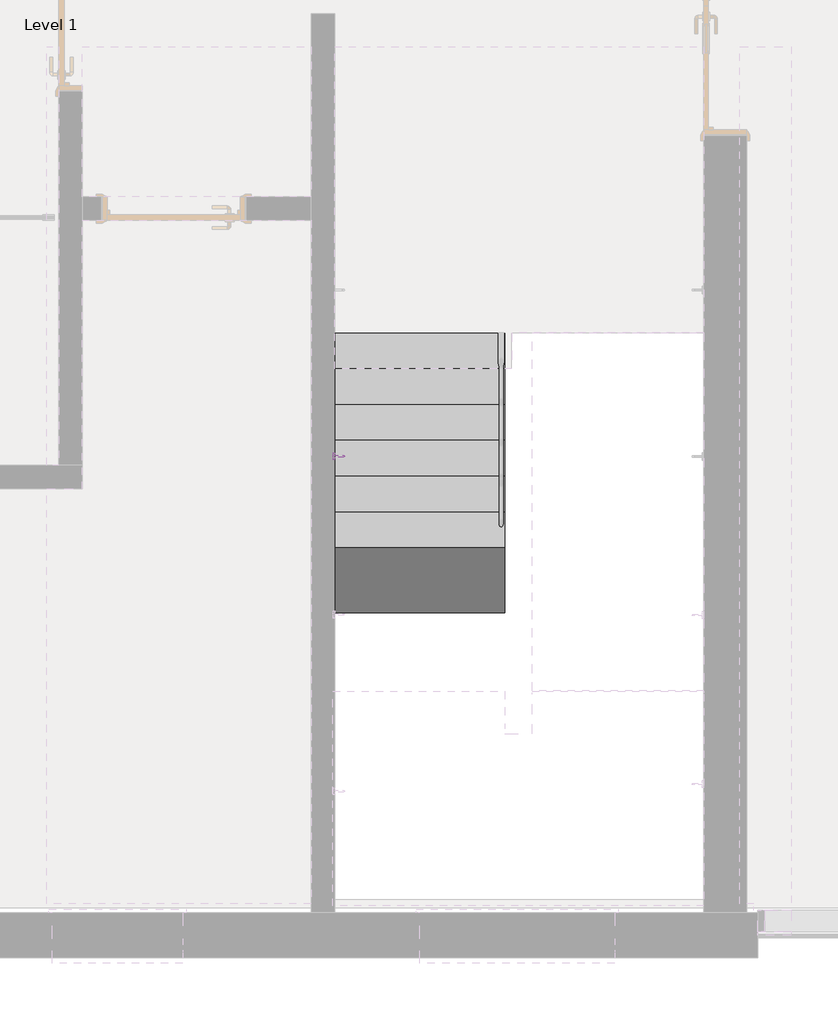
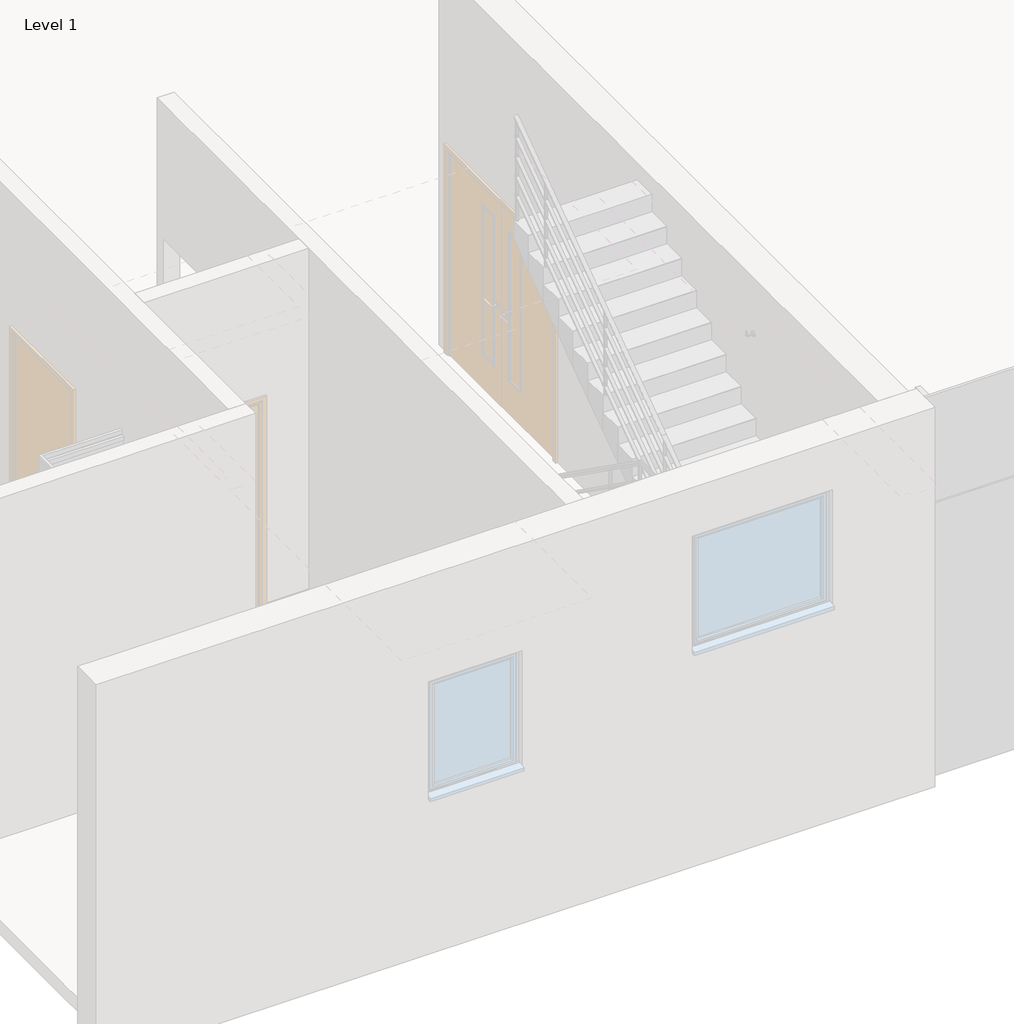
# One storey, part 8 of 12: 1 proxy, 1 stair flight.
"""IFC4 building model written with IfcOpenShell, lengths in millimetres."""

import ifcopenshell
import ifcopenshell.guid

model = None  # the IFC model being written
_history = None  # IfcOwnerHistory: only IFC2X3 demands one
_inside = {}  # id of a spatial element -> (the spatial element, [elements in it])
_under = {}  # id of a project, library or spatial element -> (it, [spatial elements below it])
_declared = {}  # id of a project -> (the project, [libraries it declares])
_typed = {}  # id of a type object -> (the type object, [elements of that type])
_made_of = {}  # id of a material, layer set ... -> (it, [elements and type objects made of it])


def new_model(schema):
    """Start an empty IFC model of exactly this schema.

    Asked for "IFC4X3", IfcOpenShell would pick the latest addendum, in which some entities
    have other attributes; the version numbers below select the first issue.
    IFC2X3 requires an IfcOwnerHistory on every rooted entity: one is made here for all.
    """
    global model, _history
    if schema == "IFC4X3":
        model = ifcopenshell.file(schema_version=(4, 3, 0, 0))
    else:
        model = ifcopenshell.file(schema=schema)
    _inside.clear()
    _under.clear()
    _declared.clear()
    _typed.clear()
    _made_of.clear()
    _history = None
    if model.schema == "IFC2X3":
        org = make("IfcOrganization", Name="unknown")
        user = make(
            "IfcPersonAndOrganization",
            ThePerson=make("IfcPerson", FamilyName="unknown"),
            TheOrganization=org,
        )
        app = make(
            "IfcApplication",
            ApplicationDeveloper=org,
            Version="unknown",
            ApplicationFullName="unknown",
            ApplicationIdentifier="unknown",
        )
        _history = make(
            "IfcOwnerHistory",
            OwningUser=user,
            OwningApplication=app,
            ChangeAction="ADDED",
            CreationDate=0,
        )
    return model


def make(cls, **values):
    """One entity of the class cls with the attributes given. An attribute that is None is left unset."""
    return model.create_entity(
        cls, **{name: value for name, value in values.items() if value is not None}
    )


def rooted(cls, **values):
    """An entity with a GlobalId (a new one), such as an element, a storey or a relation."""
    return make(cls, GlobalId=ifcopenshell.guid.new(), OwnerHistory=_history, **values)


def si_unit(unit_type, name, prefix=None):
    """IfcSIUnit, for example si_unit("LENGTHUNIT", "METRE", prefix="MILLI")."""
    return make("IfcSIUnit", UnitType=unit_type, Prefix=prefix, Name=name)


def assignment(units):
    """IfcUnitAssignment: the units of a project."""
    return None if units is None else make("IfcUnitAssignment", Units=units)


def point(xyz):
    """IfcCartesianPoint."""
    return None if xyz is None else make("IfcCartesianPoint", Coordinates=xyz)


def direction(xyz):
    """IfcDirection."""
    return None if xyz is None else make("IfcDirection", DirectionRatios=xyz)


def frame(location, z_axis=None, x_axis=None):
    """IfcAxis2Placement3D, a coordinate frame: its origin and axes. An axis left out is left unset."""
    return make(
        "IfcAxis2Placement3D",
        Location=point(location),
        Axis=direction(z_axis),
        RefDirection=direction(x_axis),
    )


def frame_2d(location, x_axis=None):
    """IfcAxis2Placement2D, a coordinate frame in the plane: its origin and x axis."""
    return make(
        "IfcAxis2Placement2D", Location=point(location), RefDirection=direction(x_axis)
    )


def origin():
    """The frame at (0, 0, 0) with its axes left unset."""
    return frame((0.0, 0.0, 0.0))


def origin_with_axes():
    """The frame at (0, 0, 0) with the z axis (0, 0, 1) and the x axis (1, 0, 0) written out."""
    return frame((0.0, 0.0, 0.0), z_axis=(0.0, 0.0, 1.0), x_axis=(1.0, 0.0, 0.0))


def place(relative_to, where):
    """IfcLocalPlacement: puts the frame where relative to a parent placement (None: the world)."""
    return make(
        "IfcLocalPlacement", PlacementRelTo=relative_to, RelativePlacement=where
    )


def context(
    kind, dimensions, precision=None, world=None, true_north=None, identifier=None
):
    """IfcGeometricRepresentationContext, for example the 3D "Model" context."""
    return make(
        "IfcGeometricRepresentationContext",
        ContextIdentifier=identifier,
        ContextType=kind,
        CoordinateSpaceDimension=dimensions,
        Precision=precision,
        WorldCoordinateSystem=world,
        TrueNorth=true_north,
    )


def project(units=None, contexts=None):
    """IfcProject with its units and contexts."""
    return rooted(
        "IfcProject",
        Name="project",
        RepresentationContexts=contexts,
        UnitsInContext=assignment(units),
    )


def spatial(cls, under=None, at=None, **own):
    """A site, building, storey or space (cls), placed at a placement, below another one or the project."""
    s = rooted(cls, ObjectPlacement=at, **own)
    if under is not None:
        _under.setdefault(under.id(), (under, []))[1].append(s)
    return s


def polyline(points):
    """IfcPolyline through the points."""
    return make("IfcPolyline", Points=[point(p) for p in points])


def circle_curve(where, radius):
    """IfcCircle in the frame where."""
    return make("IfcCircle", Position=where, Radius=radius)


def ellipse_curve(where, semi_axis1, semi_axis2):
    """IfcEllipse in the frame where."""
    return make(
        "IfcEllipse", Position=where, SemiAxis1=semi_axis1, SemiAxis2=semi_axis2
    )


def trimmed(basis, trim1, trim2, sense, master):
    """IfcTrimmedCurve: the piece of a basis curve between two trims."""
    return make(
        "IfcTrimmedCurve",
        BasisCurve=basis,
        Trim1=trim1,
        Trim2=trim2,
        SenseAgreement=sense,
        MasterRepresentation=master,
    )


def segment(curve, same_sense, transition):
    """IfcCompositeCurveSegment."""
    return make(
        "IfcCompositeCurveSegment",
        Transition=transition,
        SameSense=same_sense,
        ParentCurve=curve,
    )


def composite_curve(segments, self_intersect=None):
    """IfcCompositeCurve: segments joined end to end."""
    return make("IfcCompositeCurve", Segments=segments, SelfIntersect=self_intersect)


def outline(outer, holes=None, kind="AREA"):
    """IfcArbitraryClosedProfileDef: a profile drawn as a closed curve; with holes, ...WithVoids."""
    if holes is None:
        return make("IfcArbitraryClosedProfileDef", ProfileType=kind, OuterCurve=outer)
    return make(
        "IfcArbitraryProfileDefWithVoids",
        ProfileType=kind,
        OuterCurve=outer,
        InnerCurves=holes,
    )


def extrude(swept, where, along, depth):
    """IfcExtrudedAreaSolid: the profile swept, set in the frame where, extruded along a direction by depth."""
    return make(
        "IfcExtrudedAreaSolid",
        SweptArea=swept,
        Position=where,
        ExtrudedDirection=direction(along),
        Depth=depth,
    )


def faces_of(points, faces, orient=None, outer=None):
    """IfcFace entities. A face is a list of loops; a loop is a list of indices into points, from 0.

    orient and outer hold one flag for each loop. By default every Orientation is true, the
    first loop of a face is its IfcFaceOuterBound and the others are IfcFaceBound.
    """
    made = []
    for i, loops in enumerate(faces):
        bounds = []
        for j, loop in enumerate(loops):
            is_outer = j == 0 if outer is None else outer[i][j]
            bounds.append(
                make(
                    "IfcFaceOuterBound" if is_outer else "IfcFaceBound",
                    Bound=make("IfcPolyLoop", Polygon=[points[k] for k in loop]),
                    Orientation=True if orient is None else orient[i][j],
                )
            )
        made.append(make("IfcFace", Bounds=bounds))
    return made


def faceted_brep(points, faces, orient=None, outer=None, voids=None):
    """IfcFacetedBrep: a solid bounded by flat faces; with voids (closed shells), ...WithVoids."""
    shared = [point(p) for p in points]
    hull = make("IfcClosedShell", CfsFaces=faces_of(shared, faces, orient, outer))
    if voids is None:
        return make("IfcFacetedBrep", Outer=hull)
    return make(
        "IfcFacetedBrepWithVoids",
        Outer=hull,
        Voids=[
            make(cls, CfsFaces=faces_of(shared, fs, o, b)) for cls, fs, o, b in voids
        ],
    )


def shape(context_of_items, identifier, shape_type, items):
    """IfcShapeRepresentation: the items that make up one representation, for example the "Body"."""
    return make(
        "IfcShapeRepresentation",
        ContextOfItems=context_of_items,
        RepresentationIdentifier=identifier,
        RepresentationType=shape_type,
        Items=items,
    )


def source(mapping_origin, context_of_items, identifier, shape_type, items):
    """IfcRepresentationMap: a shape defined once, which mapped items show again and again."""
    return make(
        "IfcRepresentationMap",
        MappingOrigin=mapping_origin,
        MappedRepresentation=shape(context_of_items, identifier, shape_type, items),
    )


def transform(
    local_origin,
    x_axis=None,
    y_axis=None,
    z_axis=None,
    scale=None,
    scale2=None,
    scale3=None,
    uniform=True,
):
    """IfcCartesianTransformationOperator3D, or its non-uniform kind. x_axis, y_axis, z_axis: its Axis1, 2, 3."""
    if uniform:
        return make(
            "IfcCartesianTransformationOperator3D",
            Axis1=direction(x_axis),
            Axis2=direction(y_axis),
            LocalOrigin=point(local_origin),
            Scale=scale,
            Axis3=direction(z_axis),
        )
    return make(
        "IfcCartesianTransformationOperator3DnonUniform",
        Axis1=direction(x_axis),
        Axis2=direction(y_axis),
        LocalOrigin=point(local_origin),
        Scale=scale,
        Axis3=direction(z_axis),
        Scale2=scale2,
        Scale3=scale3,
    )


def mapped(mapping_source, mapping_target):
    """IfcMappedItem: shows the shape of a source again, moved by a transform."""
    return make(
        "IfcMappedItem", MappingSource=mapping_source, MappingTarget=mapping_target
    )


def made_of(thing, what):
    """Note that an element or type object is made of a material, layer set ...; save() writes the relation."""
    if what is not None:
        _made_of.setdefault(what.id(), (what, []))[1].append(thing)
    return thing


def element(
    cls,
    number,
    at=None,
    inside=None,
    cuts=None,
    type_object=None,
    material=None,
    context=None,
    identifier="Body",
    shape_type=None,
    held_by="IfcProductDefinitionShape",
    body=None,
    shapes=None,
    **own,
):
    """One element of the class cls, such as IfcWall. Its Tag is "e" and its number.

    at: its placement. inside: the storey or other place that contains it. cuts: it is an
    opening in that element (IfcRelVoidsElement). A single representation is given by context,
    identifier, shape_type and body (its items); several are given by shapes. held_by: the class
    of the entity that holds the representations. save() writes the other relations.
    """
    e = rooted(cls, Tag="e%d" % number, ObjectPlacement=at, **own)
    if body is not None:
        shapes = [shape(context, identifier, shape_type, body)]
    if shapes is not None:
        e.Representation = make(held_by, Representations=shapes)
    if inside is not None:
        _inside.setdefault(inside.id(), (inside, []))[1].append(e)
    if cuts is not None:
        rooted(
            "IfcRelVoidsElement", RelatingBuildingElement=cuts, RelatedOpeningElement=e
        )
    if type_object is not None:
        _typed.setdefault(type_object.id(), (type_object, []))[1].append(e)
    return made_of(e, material)


def aggregate(whole, parts):
    """IfcRelAggregates: a whole, such as a stair, and the parts it consists of."""
    return rooted("IfcRelAggregates", RelatingObject=whole, RelatedObjects=parts)


def save(model, path):
    """Write the relations noted so far, then the file.

    IfcRelAggregates (storeys below a building ...), IfcRelContainedInSpatialStructure (elements
    in a storey), IfcRelDefinesByType, IfcRelAssociatesMaterial and IfcRelDeclares: one each for
    every whole, place, type object, material and project.
    """
    for whole, parts in _under.values():
        aggregate(whole, parts)
    for where, things in _inside.values():
        rooted(
            "IfcRelContainedInSpatialStructure",
            RelatedElements=things,
            RelatingStructure=where,
        )
    for kind, things in _typed.values():
        rooted("IfcRelDefinesByType", RelatedObjects=things, RelatingType=kind)
    for what, things in _made_of.values():
        rooted("IfcRelAssociatesMaterial", RelatedObjects=things, RelatingMaterial=what)
    for by, libraries in _declared.values():
        rooted("IfcRelDeclares", RelatingContext=by, RelatedDefinitions=libraries)
    model.write(path)


def plane_surface(at):
    """IfcPlane: the flat surface through the origin of the frame at, square to its z axis."""
    return make("IfcPlane", Position=at)


def cylinder_surface(at, radius):
    """IfcCylindricalSurface: all points at the distance radius from the z axis of the frame at."""
    return make("IfcCylindricalSurface", Position=at, Radius=radius)


def revolved_surface(curve, axis_point, axis_direction):
    """IfcSurfaceOfRevolution: the curve turned about the line through axis_point along axis_direction."""
    return make(
        "IfcSurfaceOfRevolution",
        SweptCurve=make("IfcArbitraryOpenProfileDef", ProfileType="CURVE", Curve=curve),
        AxisPosition=make("IfcAxis1Placement", Location=point(axis_point), Axis=direction(axis_direction)),
    )


def advanced_brep(points, edges, surfaces, faces):
    """IfcAdvancedBrep: a solid bounded by faces that lie on surfaces and meet in shared edges.

    An edge is (start, end): straight between two places in points (the first is 0);
    or (start, end, curve); or (start, end, curve, False) where it runs against its curve.
    A face is (place in surfaces, loops), or (place, loops, False) where it looks against
    its surface's normal. A loop lists edges by number (the first is 1), with a minus sign
    where the edge is run from its end to its start. The first loop is the outer one.
    """
    corners = [point(p) for p in points]
    vertices = [make("IfcVertexPoint", VertexGeometry=c) for c in corners]
    made = []
    for start, end, *more in edges:
        made.append(
            make(
                "IfcEdgeCurve",
                EdgeStart=vertices[start],
                EdgeEnd=vertices[end],
                EdgeGeometry=more[0] if more else make("IfcPolyline", Points=[corners[start], corners[end]]),
                SameSense=more[1] if len(more) > 1 else True,
            )
        )
    hull = []
    for where, loops, *sense in faces:
        bounds = []
        for j, loop in enumerate(loops):
            ring = [make("IfcOrientedEdge", EdgeElement=made[abs(k) - 1], Orientation=k > 0) for k in loop]
            bounds.append(
                make(
                    "IfcFaceOuterBound" if j == 0 else "IfcFaceBound",
                    Bound=make("IfcEdgeLoop", EdgeList=ring),
                    Orientation=True,
                )
            )
        hull.append(make("IfcAdvancedFace", Bounds=bounds, FaceSurface=surfaces[where], SameSense=sense[0] if sense else True))
    return make("IfcAdvancedBrep", Outer=make("IfcClosedShell", CfsFaces=hull))


def support_metal_circular1_support_metal_circular_016e83f0(model_context):
    return source(origin(), model_context, "Body", "SolidModel", [
        advanced_brep(
        [(-6.0, 0.0, 0.0), (6.0, 0.0, 0.0), (-6.0, 0.0, -38.0), (6.0, 0.0, -38.0), (6.0, 12.0, -50.0), (-6.0, 12.0, -50.0), (-6.0, 63.0, -50.0), (6.0, 63.0, -50.0)],
        [
            (0, 1, circle_curve(origin_with_axes(), 6.0)),
            (1, 0, circle_curve(origin_with_axes(), 6.0)),
            (0, 2),
            (2, 3, circle_curve(frame((0.0, 0.0, -38.0), z_axis=(0.0, 0.0, 1.0), x_axis=(1.0, 0.0, 0.0)), 6.0)),
            (3, 1),
            (3, 2, circle_curve(frame((0.0, 0.0, -38.0), z_axis=(0.0, 0.0, 1.0), x_axis=(1.0, 0.0, 0.0)), 6.0)),
            (4, 3, circle_curve(frame((6.0, 12.0, -38.0), z_axis=(-1.0, 0.0, 0.0), x_axis=(0.0, -1.0, 0.0)), 12.0)),
            (2, 5, circle_curve(frame((-6.0, 12.0, -38.0), z_axis=(1.0, 0.0, 0.0), x_axis=(0.0, -1.0, 0.0)), 12.0)),
            (5, 4, circle_curve(frame((0.0, 12.0, -50.0), z_axis=(0.0, -1.0, 0.0), x_axis=(1.0, 0.0, 0.0)), 6.0)),
            (4, 5, circle_curve(frame((0.0, 12.0, -50.0), z_axis=(0.0, -1.0, 0.0), x_axis=(1.0, 0.0, 0.0)), 6.0)),
            (6, 7, circle_curve(frame((0.0, 63.0, -50.0), z_axis=(0.0, 1.0, 0.0), x_axis=(1.0, 0.0, 0.0)), 6.0)),
            (7, 6, circle_curve(frame((0.0, 63.0, -50.0), z_axis=(0.0, 1.0, 0.0), x_axis=(1.0, 0.0, 0.0)), 6.0)),
            (5, 6),
            (7, 4),
        ],
        [
            plane_surface(origin_with_axes()),
            cylinder_surface(origin_with_axes(), 6.0),
            revolved_surface(trimmed(ellipse_curve(frame((0.0, 0.0, -38.0), z_axis=(0.0, 0.0, 1.0), x_axis=(1.0, 0.0, 0.0)), 6.0, 6.0), [point((-6.0, 0.0, -38.0))], [point((6.0, 0.0, -38.0))], True, "CARTESIAN"), (0.0, 12.0, -38.0), (1.0, 0.0, 0.0)),
            revolved_surface(trimmed(ellipse_curve(frame((0.0, 0.0, -38.0), z_axis=(0.0, 0.0, 1.0), x_axis=(1.0, 0.0, 0.0)), 6.0, 6.0), [point((6.0, 0.0, -38.0))], [point((-6.0, 0.0, -38.0))], True, "CARTESIAN"), (0.0, 12.0, -38.0), (1.0, 0.0, 0.0)),
            plane_surface(frame((0.0, 63.0, -50.0), z_axis=(0.0, 1.0, 0.0), x_axis=(1.0, 0.0, 0.0))),
            cylinder_surface(frame((0.0, 12.0, -50.0), z_axis=(0.0, -1.0, 0.0), x_axis=(1.0, 0.0, 0.0)), 6.0),
        ],
        [
            (0, [[1, 2]]),
            (1, [[-1, 3, 4, 5]]),
            (1, [[-2, -5, 6, -3]]),
            (2, [[7, -4, 8, 9]]),
            (3, [[-8, -6, -7, 10]]),
            (4, [[11, 12]]),
            (5, [[-9, 13, -12, 14]]),
            (5, [[-10, -14, -11, -13]]),
        ],
    ),
        extrude(outline(composite_curve([segment(trimmed(circle_curve(frame_2d((-50.0, 0.0)), 25.0), [point((-50.0, -25.0))], [point((-50.0, 25.0))], False, "CARTESIAN"), True, "CONTINUOUS"), segment(trimmed(circle_curve(frame_2d((-50.0, 0.0)), 25.0), [point((-50.0, 25.0))], [point((-50.0, -25.0))], False, "CARTESIAN"), True, "CONTINUOUS")], self_intersect=False)), frame((0.0, 63.0, 0.0), z_axis=(0.0, 1.0, 0.0), x_axis=(0.0, 0.0, 1.0)), (0.0, 0.0, 1.0), 12.0),
    ])


model = new_model("IFC4")

# Units and contexts
model_context = context("Model", 3, world=origin())
ifc_project = project(units=[si_unit("LENGTHUNIT", "METRE", prefix="MILLI")], contexts=[model_context])

# Site, building, storey
site = spatial("IfcSite", under=ifc_project)
building = spatial("IfcBuilding", under=site)
storey = spatial("IfcBuildingStorey", under=building, Name="Level 1", Elevation=3900.0)

# Proxy
placement = place(None, origin())
support_metal_circular1_support_metal_circular_shape = support_metal_circular1_support_metal_circular_016e83f0(model_context)
element("IfcBuildingElementProxy", 1, Name="Support - Metal - Circular1 : Support - Metal - Circular", ObjectType="Support - Metal - Circular1 : Support - Metal - Circular", at=placement, inside=storey, context=model_context, shape_type="MappedRepresentation", body=[
    mapped(support_metal_circular1_support_metal_circular_shape, transform((5322.6000025, 3439.4755703, 5569.5820057), x_axis=(0.0, 1.0, 0.0), y_axis=(-1.0, 0.0, 0.0), z_axis=(0.0, 0.0, 1.0))),
])

# Stair flight
element("IfcStairFlight", 2, ObjectType="1/16\"_Tread-6\"_Depth", at=placement, inside=storey, context=model_context, shape_type="SolidModel", body=[
    faceted_brep([(6447.2000025, 4050.0, 4076.2727273), (6447.2000025, 4300.0, 4076.2727273), (5247.2000025, 4300.0, 4076.2727273), (5247.2000025, 4050.0, 4076.2727273), (6447.2000025, 4050.0, 3900.0), (6447.2000025, 4300.0, 3900.0), (5247.2000025, 4300.0, 3900.0), (5247.2000025, 4050.0, 3900.0), (6447.2000025, 3800.0, 4253.5454545), (6447.2000025, 4050.0, 4253.5454545), (5247.2000025, 4050.0, 4253.5454545), (5247.2000025, 3800.0, 4253.5454545), (6447.2000025, 3800.0, 4069.6617328), (6447.2000025, 4039.2665462, 3900.0), (5247.2000025, 4039.2665462, 3900.0), (5247.2000025, 3800.0, 4069.6617328), (6447.2000025, 3550.0, 4430.8181818), (6447.2000025, 3800.0, 4430.8181818), (5247.2000025, 3800.0, 4430.8181818), (5247.2000025, 3550.0, 4430.8181818), (6447.2000025, 3550.0, 4246.93446), (5247.2000025, 3550.0, 4246.93446), (6447.2000025, 3300.0, 4608.0909091), (6447.2000025, 3550.0, 4608.0909091), (5247.2000025, 3550.0, 4608.0909091), (5247.2000025, 3300.0, 4608.0909091), (6447.2000025, 3300.0, 4424.2071873), (5247.2000025, 3300.0, 4424.2071873), (6447.2000025, 3050.0, 4785.3636364), (6447.2000025, 3300.0, 4785.3636364), (5247.2000025, 3300.0, 4785.3636364), (5247.2000025, 3050.0, 4785.3636364), (6447.2000025, 3050.0, 4601.4799146), (5247.2000025, 3050.0, 4601.4799146), (6447.2000025, 2800.0, 4962.6363636), (6447.2000025, 3050.0, 4962.6363636), (5247.2000025, 3050.0, 4962.6363636), (5247.2000025, 2800.0, 4962.6363636), (6447.2000025, 2800.0, 4778.7526418), (5247.2000025, 2800.0, 4778.7526418), (6447.2000025, 2550.0, 5139.9090909), (6447.2000025, 2800.0, 5139.9090909), (5247.2000025, 2800.0, 5139.9090909), (5247.2000025, 2550.0, 5139.9090909), (6447.2000025, 2550.0, 4956.0253691), (5247.2000025, 2550.0, 4956.0253691), (6447.2000025, 2300.0, 5317.1818182), (6447.2000025, 2550.0, 5317.1818182), (5247.2000025, 2550.0, 5317.1818182), (5247.2000025, 2300.0, 5317.1818182), (6447.2000025, 2300.0, 5133.2980964), (5247.2000025, 2300.0, 5133.2980964), (6447.2000025, 2050.0, 5494.4545455), (6447.2000025, 2300.0, 5494.4545455), (5247.2000025, 2300.0, 5494.4545455), (5247.2000025, 2050.0, 5494.4545455), (6447.2000025, 2050.0, 5310.5708237), (5247.2000025, 2050.0, 5310.5708237), (6447.2000025, 1800.0, 5487.8435509), (5247.2000025, 1800.0, 5487.8435509), (6447.2000025, 1800.0, 5671.7272727), (6447.2000025, 2050.0, 5671.7272727), (5247.2000025, 2050.0, 5671.7272727), (5247.2000025, 1800.0, 5671.7272727)], [[[0, 1, 2, 3]], [[1, 0, 4, 5]], [[2, 1, 5, 6]], [[3, 2, 6, 7]], [[8, 9, 10, 11]], [[4, 0, 9, 8, 12, 13]], [[0, 3, 10, 9]], [[3, 7, 14, 15, 11, 10]], [[16, 17, 18, 19]], [[17, 16, 20, 12, 8]], [[8, 11, 18, 17]], [[19, 18, 11, 15, 21]], [[22, 23, 24, 25]], [[23, 22, 26, 20, 16]], [[16, 19, 24, 23]], [[25, 24, 19, 21, 27]], [[28, 29, 30, 31]], [[29, 28, 32, 26, 22]], [[22, 25, 30, 29]], [[31, 30, 25, 27, 33]], [[34, 35, 36, 37]], [[35, 34, 38, 32, 28]], [[28, 31, 36, 35]], [[37, 36, 31, 33, 39]], [[40, 41, 42, 43]], [[41, 40, 44, 38, 34]], [[34, 37, 42, 41]], [[43, 42, 37, 39, 45]], [[46, 47, 48, 49]], [[47, 46, 50, 44, 40]], [[40, 43, 48, 47]], [[49, 48, 43, 45, 51]], [[52, 53, 54, 55]], [[53, 52, 56, 50, 46]], [[46, 49, 54, 53]], [[55, 54, 49, 51, 57]], [[5, 4, 13, 14, 7, 6]], [[14, 13, 12, 20, 26, 32, 38, 44, 50, 56, 58, 59, 57, 51, 45, 39, 33, 27, 21, 15]], [[60, 61, 62, 63]], [[61, 60, 58, 56, 52]], [[52, 55, 62, 61]], [[63, 62, 55, 57, 59]], [[60, 63, 59, 58]]]),
    extrude(outline(polyline([(6447.2000025, 4050.0), (5247.2000025, 4050.0), (5247.2000025, 4300.0), (6447.2000025, 4300.0), (6447.2000025, 4050.0)])), frame((0.0, 0.0, 4076.2727273), z_axis=(0.0, 0.0, 1.0), x_axis=(1.0, 0.0, 0.0)), (0.0, 0.0, 1.0), 1.0),
    extrude(outline(polyline([(6447.2000025, 3800.0), (5247.2000025, 3800.0), (5247.2000025, 4050.0), (6447.2000025, 4050.0), (6447.2000025, 3800.0)])), frame((0.0, 0.0, 4253.5454545), z_axis=(0.0, 0.0, 1.0), x_axis=(1.0, 0.0, 0.0)), (0.0, 0.0, 1.0), 1.0),
    extrude(outline(polyline([(6447.2000025, 3550.0), (5247.2000025, 3550.0), (5247.2000025, 3800.0), (6447.2000025, 3800.0), (6447.2000025, 3550.0)])), frame((0.0, 0.0, 4430.8181818), z_axis=(0.0, 0.0, 1.0), x_axis=(1.0, 0.0, 0.0)), (0.0, 0.0, 1.0), 1.0),
    extrude(outline(polyline([(6447.2000025, 3300.0), (5247.2000025, 3300.0), (5247.2000025, 3550.0), (6447.2000025, 3550.0), (6447.2000025, 3300.0)])), frame((0.0, 0.0, 4608.0909091), z_axis=(0.0, 0.0, 1.0), x_axis=(1.0, 0.0, 0.0)), (0.0, 0.0, 1.0), 1.0),
    extrude(outline(polyline([(6447.2000025, 3050.0), (5247.2000025, 3050.0), (5247.2000025, 3300.0), (6447.2000025, 3300.0), (6447.2000025, 3050.0)])), frame((0.0, 0.0, 4785.3636364), z_axis=(0.0, 0.0, 1.0), x_axis=(1.0, 0.0, 0.0)), (0.0, 0.0, 1.0), 1.0),
    extrude(outline(polyline([(6447.2000025, 2800.0), (5247.2000025, 2800.0), (5247.2000025, 3050.0), (6447.2000025, 3050.0), (6447.2000025, 2800.0)])), frame((0.0, 0.0, 4962.6363636), z_axis=(0.0, 0.0, 1.0), x_axis=(1.0, 0.0, 0.0)), (0.0, 0.0, 1.0), 1.0),
    extrude(outline(polyline([(6447.2000025, 2550.0), (5247.2000025, 2550.0), (5247.2000025, 2800.0), (6447.2000025, 2800.0), (6447.2000025, 2550.0)])), frame((0.0, 0.0, 5139.9090909), z_axis=(0.0, 0.0, 1.0), x_axis=(1.0, 0.0, 0.0)), (0.0, 0.0, 1.0), 1.0),
    extrude(outline(polyline([(6447.2000025, 2300.0), (5247.2000025, 2300.0), (5247.2000025, 2550.0), (6447.2000025, 2550.0), (6447.2000025, 2300.0)])), frame((0.0, 0.0, 5317.1818182), z_axis=(0.0, 0.0, 1.0), x_axis=(1.0, 0.0, 0.0)), (0.0, 0.0, 1.0), 1.0),
    extrude(outline(polyline([(6447.2000025, 2050.0), (5247.2000025, 2050.0), (5247.2000025, 2300.0), (6447.2000025, 2300.0), (6447.2000025, 2050.0)])), frame((0.0, 0.0, 5494.4545455), z_axis=(0.0, 0.0, 1.0), x_axis=(1.0, 0.0, 0.0)), (0.0, 0.0, 1.0), 1.0),
    extrude(outline(polyline([(6447.2000025, 1800.0), (5247.2000025, 1800.0), (5247.2000025, 2050.0), (6447.2000025, 2050.0), (6447.2000025, 1800.0)])), frame((0.0, 0.0, 5671.7272727), z_axis=(0.0, 0.0, 1.0), x_axis=(1.0, 0.0, 0.0)), (0.0, 0.0, 1.0), 1.0),
])

save(model, "model.ifc")
